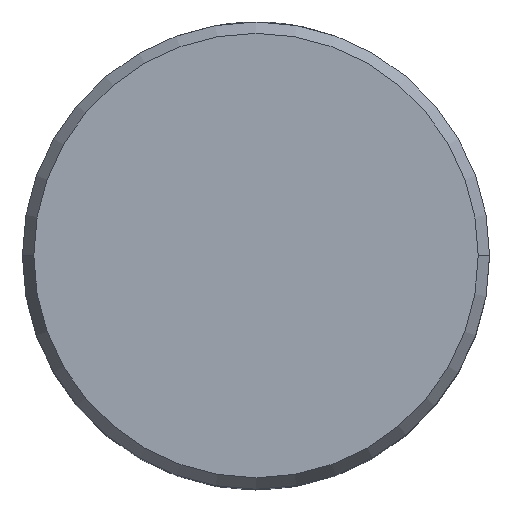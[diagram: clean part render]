
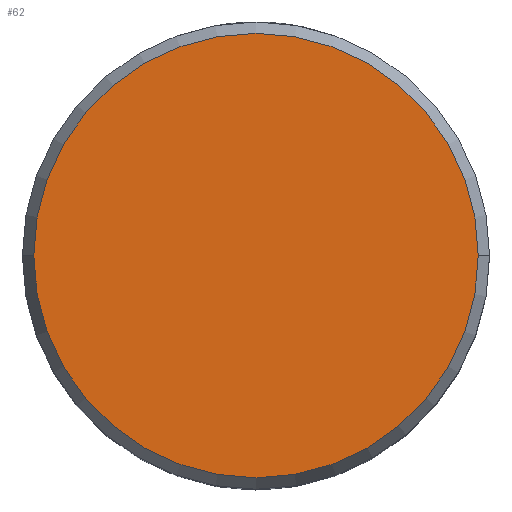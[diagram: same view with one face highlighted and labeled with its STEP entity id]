
A CAD part, top view. The second image highlights one B-rep face of the part: STEP entity #62.
In plain terms, the highlighted planar face has unit normal (0, 0, 1).
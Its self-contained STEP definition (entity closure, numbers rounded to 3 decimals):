
#28 = CIRCLE ( 'NONE', #295, 22.595 ) ;
#62 = ADVANCED_FACE ( 'NONE', ( #318 ), #105, .T. ) ;
#76 = CARTESIAN_POINT ( 'NONE',  ( 0., 0., 32.5 ) ) ;
#100 = VERTEX_POINT ( 'NONE', #286 ) ;
#105 = PLANE ( 'NONE',  #136 ) ;
#131 = DIRECTION ( 'NONE',  ( 1., 0., 0. ) ) ;
#136 = AXIS2_PLACEMENT_3D ( 'NONE', #76, #226, #218 ) ;
#142 = DIRECTION ( 'NONE',  ( 1., 0., 0. ) ) ;
#151 = EDGE_CURVE ( 'NONE', #100, #355, #28, .T. ) ;
#159 = CIRCLE ( 'NONE', #377, 22.595 ) ;
#218 = DIRECTION ( 'NONE',  ( 1., 0., 0. ) ) ;
#226 = DIRECTION ( 'NONE',  ( 0., 0., 1. ) ) ;
#228 = DIRECTION ( 'NONE',  ( 0., 0., 1. ) ) ;
#283 = ORIENTED_EDGE ( 'NONE', *, *, #151, .T. ) ;
#286 = CARTESIAN_POINT ( 'NONE',  ( -22.595, 0., 32.5 ) ) ;
#295 = AXIS2_PLACEMENT_3D ( 'NONE', #430, #228, #142 ) ;
#303 = CARTESIAN_POINT ( 'NONE',  ( 22.595, 0., 32.5 ) ) ;
#318 = FACE_OUTER_BOUND ( 'NONE', #352, .T. ) ;
#323 = ORIENTED_EDGE ( 'NONE', *, *, #393, .T. ) ;
#342 = DIRECTION ( 'NONE',  ( 0., 0., 1. ) ) ;
#352 = EDGE_LOOP ( 'NONE', ( #283, #323 ) ) ;
#355 = VERTEX_POINT ( 'NONE', #303 ) ;
#377 = AXIS2_PLACEMENT_3D ( 'NONE', #387, #342, #131 ) ;
#387 = CARTESIAN_POINT ( 'NONE',  ( 0., 0., 32.5 ) ) ;
#393 = EDGE_CURVE ( 'NONE', #355, #100, #159, .T. ) ;
#430 = CARTESIAN_POINT ( 'NONE',  ( 0., 0., 32.5 ) ) ;
